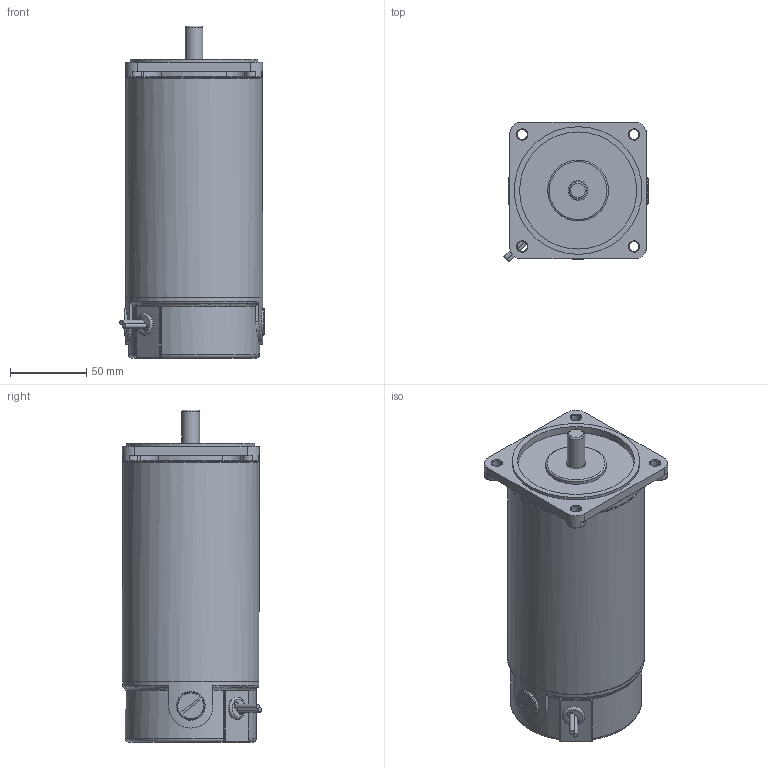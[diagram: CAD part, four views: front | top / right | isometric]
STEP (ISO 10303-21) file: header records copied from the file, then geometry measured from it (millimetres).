
FILE_DESCRIPTION((''),'2;1');
FILE_NAME('\\192.168.5.4\오메가연구소\DC CAD\02 - DC MOTOR 설계 - CAD FILE\DC MOTOR 3D 도면\표준 3D 파일\90각\300W\S9D300-ㅁHH.stp','2014-06-16T20:10:16',('ycw1227'),(''),'Autodesk Inventor 2011','Autodesk Inventor 2011','');
FILE_SCHEMA(('AUTOMOTIVE_DESIGN { 1 0 10303 214 1 1 1 1 }'));
Length unit declared in the file: millimetre
Products named in the file (1): 부품35
Bounding box: 94.79 x 91.63 x 218.3 mm (x, y, z)
Volume: 1227051.4 mm3; surface area: 77542.6 mm2
Topology: 2 solids, 4 shells, 186 faces, 426 edges, 262 vertices
Faces by surface type: plane 74, cylinder 65, torus 31, cone 13, sphere 2, bspline 1
Full cylindrical faces by diameter (mm): 3 x2, 5 x3, 6.5 x4, 11.57 x1, 12 x1, 13 x1, 14.63 x1, 14.65 x1, 18 x2, 19 x2, 40 x1, 77 x1, 84 x1, 90 x2
Entity records: 5545 total; most frequent: CARTESIAN_POINT 1289, DIRECTION 938, ORIENTED_EDGE 772, AXIS2_PLACEMENT_3D 396, EDGE_CURVE 386, VERTEX_POINT 257, EDGE_LOOP 244, CIRCLE 210
